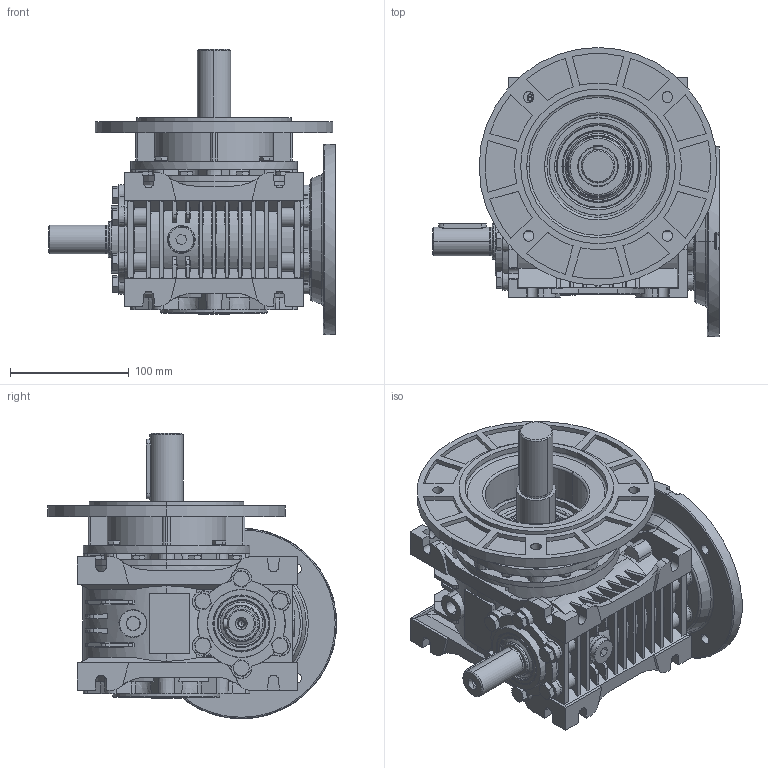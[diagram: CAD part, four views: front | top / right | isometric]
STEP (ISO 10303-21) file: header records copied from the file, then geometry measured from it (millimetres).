
FILE_DESCRIPTION (( 'STEP AP203' ), '1' );
FILE_NAME ('MR-63_160-14-WBS-K200_2-WJ_2-3D.STEP', '2022-01-17T09:41:34', ( '' ), ( '' ), 'SwSTEP 2.0', 'SolidWorks 2022', '' );
FILE_SCHEMA (( 'CONFIG_CONTROL_DESIGN' ));
Products named in the file (1): MR-63_160-14-WBS-K200_2-WJ_2-3D
Bounding box: 241 x 242.91 x 240.07 mm (x, y, z)
Volume: 2967942.5 mm3; surface area: 401231.4 mm2
Topology: 1 solids, 55 shells, 3254 faces, 7947 edges, 4847 vertices
Faces by surface type: plane 1255, cone 649, cylinder 606, bspline 431, torus 175, sphere 138
Entity records: 116868 total; most frequent: CARTESIAN_POINT 44253, ORIENTED_EDGE 15782, DIRECTION 14527, EDGE_CURVE 7891, AXIS2_PLACEMENT_3D 5648, VERTEX_POINT 4847, EDGE_LOOP 3444, ADVANCED_FACE 3254
